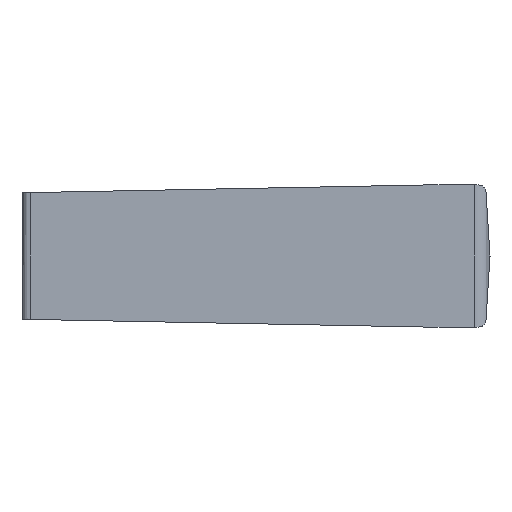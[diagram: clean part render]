
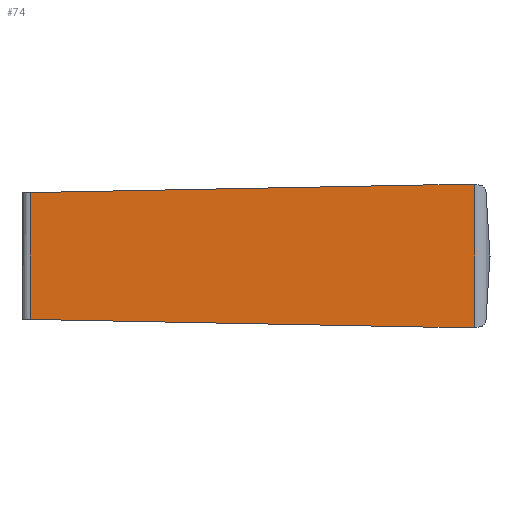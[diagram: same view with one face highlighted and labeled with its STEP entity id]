
A CAD part, left-side view. The second image highlights one B-rep face of the part: STEP entity #74.
In plain terms, the highlighted planar face has unit normal (-1, -0.026, 0).
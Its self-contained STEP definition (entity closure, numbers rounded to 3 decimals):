
#74 = ADVANCED_FACE( '', ( #165 ), #166, .F. );
#165 = FACE_OUTER_BOUND( '', #264, .T. );
#166 = PLANE( '', #265 );
#264 = EDGE_LOOP( '', ( #404, #405, #406, #407, #408, #409 ) );
#265 = AXIS2_PLACEMENT_3D( '', #410, #411, #412 );
#404 = ORIENTED_EDGE( '', *, *, #605, .F. );
#405 = ORIENTED_EDGE( '', *, *, #606, .T. );
#406 = ORIENTED_EDGE( '', *, *, #607, .T. );
#407 = ORIENTED_EDGE( '', *, *, #608, .T. );
#408 = ORIENTED_EDGE( '', *, *, #609, .F. );
#409 = ORIENTED_EDGE( '', *, *, #574, .F. );
#410 = CARTESIAN_POINT( '', ( -5.187, -0.513, 15. ) );
#411 = DIRECTION( '', ( 1., 0.026, 0. ) );
#412 = DIRECTION( '', ( -0.026, 1., 0. ) );
#574 = EDGE_CURVE( '', #679, #681, #682, .T. );
#605 = EDGE_CURVE( '', #733, #679, #734, .T. );
#606 = EDGE_CURVE( '', #733, #735, #736, .T. );
#607 = EDGE_CURVE( '', #735, #737, #738, .T. );
#608 = EDGE_CURVE( '', #737, #739, #740, .T. );
#609 = EDGE_CURVE( '', #681, #739, #741, .T. );
#679 = VERTEX_POINT( '', #840 );
#681 = VERTEX_POINT( '', #842 );
#682 = LINE( '', #843, #844 );
#733 = VERTEX_POINT( '', #952 );
#734 = LINE( '', #953, #954 );
#735 = VERTEX_POINT( '', #955 );
#736 = LINE( '', #956, #957 );
#737 = VERTEX_POINT( '', #958 );
#738 = LINE( '', #959, #960 );
#739 = VERTEX_POINT( '', #961 );
#740 = LINE( '', #962, #963 );
#741 = LINE( '', #964, #965 );
#840 = CARTESIAN_POINT( '', ( -4.45, -28.626, 4.5 ) );
#842 = CARTESIAN_POINT( '', ( -4.45, -28.626, -4.5 ) );
#843 = CARTESIAN_POINT( '', ( -4.45, -28.626, 15. ) );
#844 = VECTOR( '', #1092, 1000. );
#952 = CARTESIAN_POINT( '', ( -4.523, -25.86, 4.5 ) );
#953 = CARTESIAN_POINT( '', ( -4.341, -32.813, 4.5 ) );
#954 = VECTOR( '', #1121, 1000. );
#955 = CARTESIAN_POINT( '', ( -5.187, -0.513, 4.01 ) );
#956 = CARTESIAN_POINT( '', ( -5.181, -0.725, 4.014 ) );
#957 = VECTOR( '', #1122, 1000. );
#958 = CARTESIAN_POINT( '', ( -5.187, -0.513, -4.01 ) );
#959 = CARTESIAN_POINT( '', ( -5.187, -0.513, 15. ) );
#960 = VECTOR( '', #1123, 1000. );
#961 = CARTESIAN_POINT( '', ( -4.523, -25.86, -4.5 ) );
#962 = CARTESIAN_POINT( '', ( -5.196, -0.146, -4.003 ) );
#963 = VECTOR( '', #1124, 1000. );
#964 = CARTESIAN_POINT( '', ( -4.263, -35.8, -4.5 ) );
#965 = VECTOR( '', #1125, 1000. );
#1092 = DIRECTION( '', ( 0., 0., -1. ) );
#1121 = DIRECTION( '', ( 0.026, -1., 0. ) );
#1122 = DIRECTION( '', ( -0.026, 0.999, -0.019 ) );
#1123 = DIRECTION( '', ( 0., 0., -1. ) );
#1124 = DIRECTION( '', ( 0.026, -0.999, -0.019 ) );
#1125 = DIRECTION( '', ( -0.026, 1., 0. ) );
